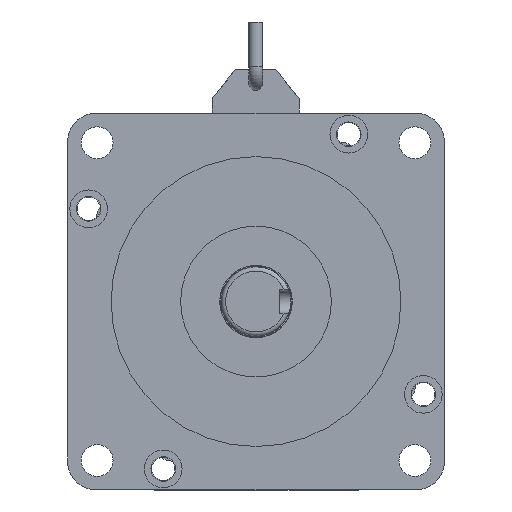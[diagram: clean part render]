
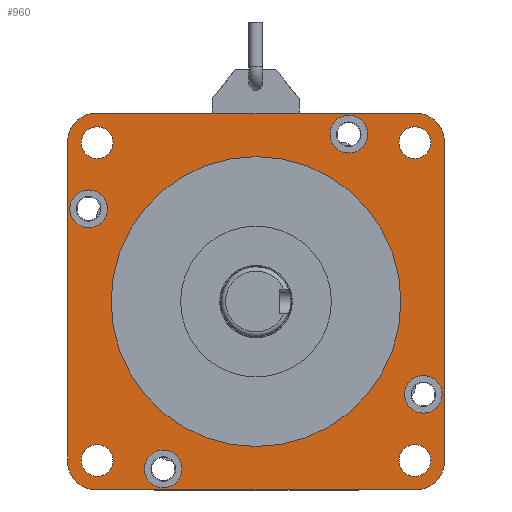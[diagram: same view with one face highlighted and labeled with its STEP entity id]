
A CAD part, front view. The second image highlights one B-rep face of the part: STEP entity #960.
In plain terms, the highlighted planar face has unit normal (0, -1, 0).
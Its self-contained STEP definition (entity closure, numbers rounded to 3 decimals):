
#960=ADVANCED_FACE('',(#3285,#3286,#3287,#3288,#3289,#3290,#3291,#3292,
#3293,#3294),#1276,.T.);
#1276=PLANE('',#8758);
#2117=LINE('',#13292,#2979);
#2124=LINE('',#13306,#2986);
#2131=LINE('',#13320,#2993);
#2138=LINE('',#13334,#3000);
#2979=VECTOR('',#10678,1.);
#2986=VECTOR('',#10687,1.);
#2993=VECTOR('',#10696,1.);
#3000=VECTOR('',#10705,1.);
#3285=FACE_BOUND('',#3895,.T.);
#3286=FACE_BOUND('',#3896,.T.);
#3287=FACE_BOUND('',#3897,.T.);
#3288=FACE_BOUND('',#3898,.T.);
#3289=FACE_BOUND('',#3899,.T.);
#3290=FACE_BOUND('',#3900,.T.);
#3291=FACE_BOUND('',#3901,.T.);
#3292=FACE_BOUND('',#3902,.T.);
#3293=FACE_BOUND('',#3903,.T.);
#3294=FACE_BOUND('',#3904,.T.);
#3895=EDGE_LOOP('',(#5976));
#3896=EDGE_LOOP('',(#5977));
#3897=EDGE_LOOP('',(#5978));
#3898=EDGE_LOOP('',(#5979));
#3899=EDGE_LOOP('',(#5980));
#3900=EDGE_LOOP('',(#5981));
#3901=EDGE_LOOP('',(#5982));
#3902=EDGE_LOOP('',(#5983));
#3903=EDGE_LOOP('',(#5984));
#3904=EDGE_LOOP('',(#5985,#5986,#5987,#5988,#5989,#5990,#5991,#5992));
#5976=ORIENTED_EDGE('',*,*,#7923,.T.);
#5977=ORIENTED_EDGE('',*,*,#7921,.T.);
#5978=ORIENTED_EDGE('',*,*,#7919,.T.);
#5979=ORIENTED_EDGE('',*,*,#7917,.T.);
#5980=ORIENTED_EDGE('',*,*,#7908,.T.);
#5981=ORIENTED_EDGE('',*,*,#7906,.T.);
#5982=ORIENTED_EDGE('',*,*,#7904,.T.);
#5983=ORIENTED_EDGE('',*,*,#7910,.T.);
#5984=ORIENTED_EDGE('',*,*,#7926,.T.);
#5985=ORIENTED_EDGE('',*,*,#7888,.F.);
#5986=ORIENTED_EDGE('',*,*,#7897,.T.);
#5987=ORIENTED_EDGE('',*,*,#7895,.F.);
#5988=ORIENTED_EDGE('',*,*,#7903,.T.);
#5989=ORIENTED_EDGE('',*,*,#7874,.F.);
#5990=ORIENTED_EDGE('',*,*,#7901,.T.);
#5991=ORIENTED_EDGE('',*,*,#7881,.F.);
#5992=ORIENTED_EDGE('',*,*,#7899,.T.);
#6812=VERTEX_POINT('',#13281);
#6817=VERTEX_POINT('',#13291);
#6818=VERTEX_POINT('',#13295);
#6823=VERTEX_POINT('',#13305);
#6824=VERTEX_POINT('',#13309);
#6829=VERTEX_POINT('',#13319);
#6830=VERTEX_POINT('',#13323);
#6835=VERTEX_POINT('',#13333);
#6836=VERTEX_POINT('',#13349);
#6838=VERTEX_POINT('',#13354);
#6840=VERTEX_POINT('',#13359);
#6842=VERTEX_POINT('',#13364);
#6849=VERTEX_POINT('',#13383);
#6851=VERTEX_POINT('',#13388);
#6853=VERTEX_POINT('',#13393);
#6855=VERTEX_POINT('',#13398);
#6858=VERTEX_POINT('',#13407);
#7874=EDGE_CURVE('',#6817,#6812,#2117,.T.);
#7881=EDGE_CURVE('',#6823,#6818,#2124,.T.);
#7888=EDGE_CURVE('',#6829,#6824,#2131,.T.);
#7895=EDGE_CURVE('',#6835,#6830,#2138,.T.);
#7897=EDGE_CURVE('',#6829,#6830,#8131,.T.);
#7899=EDGE_CURVE('',#6823,#6824,#8133,.T.);
#7901=EDGE_CURVE('',#6817,#6818,#8135,.T.);
#7903=EDGE_CURVE('',#6835,#6812,#8137,.T.);
#7904=EDGE_CURVE('',#6836,#6836,#8138,.T.);
#7906=EDGE_CURVE('',#6838,#6838,#8140,.T.);
#7908=EDGE_CURVE('',#6840,#6840,#8142,.T.);
#7910=EDGE_CURVE('',#6842,#6842,#8144,.T.);
#7917=EDGE_CURVE('',#6849,#6849,#8151,.T.);
#7919=EDGE_CURVE('',#6851,#6851,#8153,.T.);
#7921=EDGE_CURVE('',#6853,#6853,#8155,.T.);
#7923=EDGE_CURVE('',#6855,#6855,#8157,.T.);
#7926=EDGE_CURVE('',#6858,#6858,#8160,.T.);
#8131=CIRCLE('',#8709,10.);
#8133=CIRCLE('',#8712,10.);
#8135=CIRCLE('',#8715,10.);
#8137=CIRCLE('',#8718,10.);
#8138=CIRCLE('',#8720,5.5);
#8140=CIRCLE('',#8723,5.5);
#8142=CIRCLE('',#8726,5.5);
#8144=CIRCLE('',#8729,5.5);
#8151=CIRCLE('',#8741,6.5);
#8153=CIRCLE('',#8744,6.5);
#8155=CIRCLE('',#8747,6.5);
#8157=CIRCLE('',#8750,6.5);
#8160=CIRCLE('',#8756,50.);
#8709=AXIS2_PLACEMENT_3D('',#13337,#10710,#10711);
#8712=AXIS2_PLACEMENT_3D('',#13340,#10716,#10717);
#8715=AXIS2_PLACEMENT_3D('',#13343,#10722,#10723);
#8718=AXIS2_PLACEMENT_3D('',#13346,#10728,#10729);
#8720=AXIS2_PLACEMENT_3D('',#13348,#10732,#10733);
#8723=AXIS2_PLACEMENT_3D('',#13353,#10738,#10739);
#8726=AXIS2_PLACEMENT_3D('',#13358,#10744,#10745);
#8729=AXIS2_PLACEMENT_3D('',#13363,#10750,#10751);
#8741=AXIS2_PLACEMENT_3D('',#13382,#10774,#10775);
#8744=AXIS2_PLACEMENT_3D('',#13387,#10780,#10781);
#8747=AXIS2_PLACEMENT_3D('',#13392,#10786,#10787);
#8750=AXIS2_PLACEMENT_3D('',#13397,#10792,#10793);
#8756=AXIS2_PLACEMENT_3D('',#13406,#10804,#10805);
#8758=AXIS2_PLACEMENT_3D('',#13409,#10808,#10809);
#10678=DIRECTION('',(0.,0.,1.));
#10687=DIRECTION('',(-1.,0.,0.));
#10696=DIRECTION('',(0.,0.,-1.));
#10705=DIRECTION('',(1.,0.,0.));
#10710=DIRECTION('',(0.,-1.,0.));
#10711=DIRECTION('',(-1.,0.,0.));
#10716=DIRECTION('',(0.,-1.,0.));
#10717=DIRECTION('',(-1.,0.,0.));
#10722=DIRECTION('',(0.,-1.,0.));
#10723=DIRECTION('',(-1.,0.,0.));
#10728=DIRECTION('',(0.,-1.,0.));
#10729=DIRECTION('',(-1.,0.,0.));
#10732=DIRECTION('',(0.,1.,0.));
#10733=DIRECTION('',(0.,0.,1.));
#10738=DIRECTION('',(0.,1.,0.));
#10739=DIRECTION('',(-1.,0.,0.));
#10744=DIRECTION('',(0.,1.,0.));
#10745=DIRECTION('',(0.,0.,-1.));
#10750=DIRECTION('',(0.,1.,0.));
#10751=DIRECTION('',(1.,0.,0.));
#10774=DIRECTION('',(0.,1.,0.));
#10775=DIRECTION('',(0.,0.,1.));
#10780=DIRECTION('',(0.,1.,0.));
#10781=DIRECTION('',(-1.,0.,0.));
#10786=DIRECTION('',(0.,1.,0.));
#10787=DIRECTION('',(0.,0.,-1.));
#10792=DIRECTION('',(0.,1.,0.));
#10793=DIRECTION('',(1.,0.,0.));
#10804=DIRECTION('',(0.,1.,0.));
#10805=DIRECTION('',(-1.,0.,0.));
#10808=DIRECTION('',(0.,-1.,0.));
#10809=DIRECTION('',(-1.,0.,0.));
#13281=CARTESIAN_POINT('',(298.536,-994.118,102.721));
#13291=CARTESIAN_POINT('',(298.536,-994.118,-7.279));
#13292=CARTESIAN_POINT('',(298.536,-994.118,47.721));
#13295=CARTESIAN_POINT('',(308.536,-994.118,-17.279));
#13305=CARTESIAN_POINT('',(418.536,-994.118,-17.279));
#13306=CARTESIAN_POINT('',(363.536,-994.118,-17.279));
#13309=CARTESIAN_POINT('',(428.536,-994.118,-7.279));
#13319=CARTESIAN_POINT('',(428.536,-994.118,102.721));
#13320=CARTESIAN_POINT('',(428.536,-994.118,47.721));
#13323=CARTESIAN_POINT('',(418.536,-994.118,112.721));
#13333=CARTESIAN_POINT('',(308.536,-994.118,112.721));
#13334=CARTESIAN_POINT('',(363.536,-994.118,112.721));
#13337=CARTESIAN_POINT('',(418.536,-994.118,102.721));
#13340=CARTESIAN_POINT('',(418.536,-994.118,-7.279));
#13343=CARTESIAN_POINT('',(308.536,-994.118,-7.279));
#13346=CARTESIAN_POINT('',(308.536,-994.118,102.721));
#13348=CARTESIAN_POINT('',(418.337,-994.118,102.522));
#13349=CARTESIAN_POINT('',(418.337,-994.118,108.022));
#13353=CARTESIAN_POINT('',(308.736,-994.118,102.522));
#13354=CARTESIAN_POINT('',(303.236,-994.118,102.522));
#13358=CARTESIAN_POINT('',(308.736,-994.118,-7.079));
#13359=CARTESIAN_POINT('',(308.736,-994.118,-12.579));
#13363=CARTESIAN_POINT('',(418.337,-994.118,-7.079));
#13364=CARTESIAN_POINT('',(423.837,-994.118,-7.079));
#13382=CARTESIAN_POINT('',(421.261,-994.118,15.724));
#13383=CARTESIAN_POINT('',(421.261,-994.118,22.224));
#13387=CARTESIAN_POINT('',(395.534,-994.118,105.446));
#13388=CARTESIAN_POINT('',(389.034,-994.118,105.446));
#13392=CARTESIAN_POINT('',(305.811,-994.118,79.719));
#13393=CARTESIAN_POINT('',(305.811,-994.118,73.219));
#13397=CARTESIAN_POINT('',(331.539,-994.118,-10.004));
#13398=CARTESIAN_POINT('',(338.039,-994.118,-10.004));
#13406=CARTESIAN_POINT('',(363.536,-994.118,47.721));
#13407=CARTESIAN_POINT('',(313.536,-994.118,47.721));
#13409=CARTESIAN_POINT('',(363.536,-994.118,47.721));
